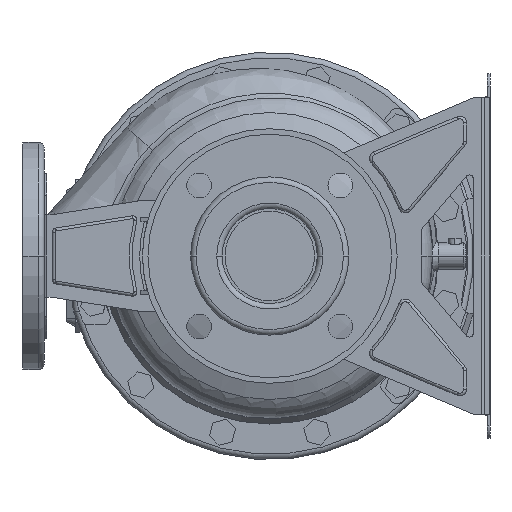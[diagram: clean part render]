
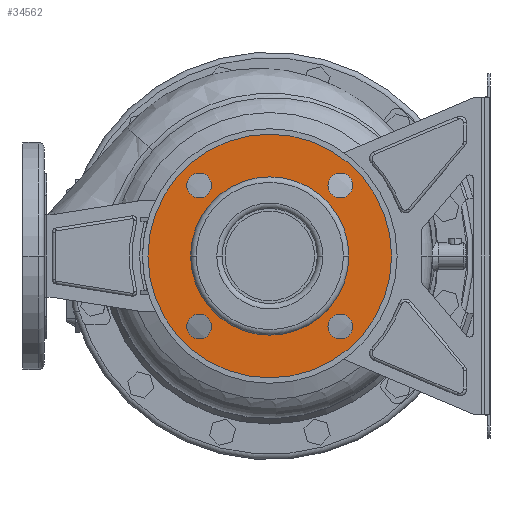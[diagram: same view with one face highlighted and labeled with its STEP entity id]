
A CAD part, front view. The second image highlights one B-rep face of the part: STEP entity #34562.
In plain terms, the highlighted planar face has unit normal (0, -1, 0) as drawn and (-1, 0, 0) by its records, which use the part's own axes.
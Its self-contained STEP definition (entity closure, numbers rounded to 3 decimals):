
#33895=CARTESIAN_POINT('',(12.,0.,0.));
#33896=DIRECTION('',(-1.,0.,0.));
#33897=DIRECTION('',(0.,1.,0.));
#33898=AXIS2_PLACEMENT_3D('',#33895,#33896,#33897);
#33903=CARTESIAN_POINT('',(12.,0.,0.));
#33904=DIRECTION('',(1.,0.,0.));
#33905=DIRECTION('',(0.,1.,0.));
#33906=AXIS2_PLACEMENT_3D('',#33903,#33904,#33905);
#33911=CARTESIAN_POINT('',(12.,-51.265,51.265));
#33912=DIRECTION('',(1.,0.,0.));
#33913=DIRECTION('',(0.,1.,0.));
#33914=AXIS2_PLACEMENT_3D('',#33911,#33912,#33913);
#33919=CARTESIAN_POINT('',(12.,-51.265,51.265));
#33920=DIRECTION('',(1.,0.,0.));
#33921=DIRECTION('',(0.,-1.,0.));
#33922=AXIS2_PLACEMENT_3D('',#33919,#33920,#33921);
#33927=CARTESIAN_POINT('',(12.,-51.265,-51.265));
#33928=DIRECTION('',(1.,0.,0.));
#33929=DIRECTION('',(0.,0.,1.));
#33930=AXIS2_PLACEMENT_3D('',#33927,#33928,#33929);
#33935=CARTESIAN_POINT('',(12.,-51.265,-51.265));
#33936=DIRECTION('',(1.,0.,0.));
#33937=DIRECTION('',(0.,0.,-1.));
#33938=AXIS2_PLACEMENT_3D('',#33935,#33936,#33937);
#33943=CARTESIAN_POINT('',(12.,51.265,-51.265));
#33944=DIRECTION('',(1.,0.,0.));
#33945=DIRECTION('',(0.,-1.,0.));
#33946=AXIS2_PLACEMENT_3D('',#33943,#33944,#33945);
#33951=CARTESIAN_POINT('',(12.,51.265,-51.265));
#33952=DIRECTION('',(1.,0.,0.));
#33953=DIRECTION('',(0.,1.,0.));
#33954=AXIS2_PLACEMENT_3D('',#33951,#33952,#33953);
#33959=CARTESIAN_POINT('',(12.,51.265,51.265));
#33960=DIRECTION('',(1.,0.,0.));
#33961=DIRECTION('',(0.,0.,-1.));
#33962=AXIS2_PLACEMENT_3D('',#33959,#33960,#33961);
#33967=CARTESIAN_POINT('',(12.,51.265,51.265));
#33968=DIRECTION('',(1.,0.,0.));
#33969=DIRECTION('',(0.,0.,1.));
#33970=AXIS2_PLACEMENT_3D('',#33967,#33968,#33969);
#33975=CARTESIAN_POINT('',(12.,0.,0.));
#33976=DIRECTION('',(1.,0.,0.));
#33977=DIRECTION('',(0.,1.,0.));
#33978=AXIS2_PLACEMENT_3D('',#33975,#33976,#33977);
#33997=CARTESIAN_POINT('',(12.,0.,0.));
#33998=DIRECTION('',(-1.,0.,0.));
#33999=DIRECTION('',(0.,1.,0.));
#34000=AXIS2_PLACEMENT_3D('',#33997,#33998,#33999);
#34162=CARTESIAN_POINT('',(12.,88.5,0.));
#34164=VERTEX_POINT('',#34162);
#34165=CARTESIAN_POINT('',(12.,57.5,0.));
#34167=VERTEX_POINT('',#34165);
#34194=CARTESIAN_POINT('',(12.,-88.5,0.));
#34196=VERTEX_POINT('',#34194);
#34197=CARTESIAN_POINT('',(12.,-57.5,0.));
#34199=VERTEX_POINT('',#34197);
#34209=CARTESIAN_POINT('',(12.,-42.265,51.265));
#34210=CARTESIAN_POINT('',(12.,-60.265,51.265));
#34211=VERTEX_POINT('',#34209);
#34212=VERTEX_POINT('',#34210);
#34217=CARTESIAN_POINT('',(12.,-51.265,-42.265));
#34218=CARTESIAN_POINT('',(12.,-51.265,-60.265));
#34219=VERTEX_POINT('',#34217);
#34220=VERTEX_POINT('',#34218);
#34225=CARTESIAN_POINT('',(12.,42.265,-51.265));
#34226=CARTESIAN_POINT('',(12.,60.265,-51.265));
#34227=VERTEX_POINT('',#34225);
#34228=VERTEX_POINT('',#34226);
#34233=CARTESIAN_POINT('',(12.,51.265,42.265));
#34234=CARTESIAN_POINT('',(12.,51.265,60.265));
#34235=VERTEX_POINT('',#34233);
#34236=VERTEX_POINT('',#34234);
#34523=CARTESIAN_POINT('',(12.,0.,0.));
#34524=DIRECTION('',(1.,0.,0.));
#34525=DIRECTION('',(0.,-1.,0.));
#34526=AXIS2_PLACEMENT_3D('',#34523,#34524,#34525);
#34527=PLANE('',#34526);
#34528=ORIENTED_EDGE('',*,*,#34516,.F.);
#34529=ORIENTED_EDGE('',*,*,#34505,.T.);
#34530=EDGE_LOOP('',(#34528,#34529));
#34531=FACE_OUTER_BOUND('',#34530,.F.);
#34533=ORIENTED_EDGE('',*,*,#34532,.F.);
#34535=ORIENTED_EDGE('',*,*,#34534,.T.);
#34536=EDGE_LOOP('',(#34533,#34535));
#34537=FACE_BOUND('',#34536,.F.);
#34539=ORIENTED_EDGE('',*,*,#34538,.F.);
#34541=ORIENTED_EDGE('',*,*,#34540,.F.);
#34542=EDGE_LOOP('',(#34539,#34541));
#34543=FACE_BOUND('',#34542,.F.);
#34545=ORIENTED_EDGE('',*,*,#34544,.F.);
#34547=ORIENTED_EDGE('',*,*,#34546,.F.);
#34548=EDGE_LOOP('',(#34545,#34547));
#34549=FACE_BOUND('',#34548,.F.);
#34551=ORIENTED_EDGE('',*,*,#34550,.F.);
#34553=ORIENTED_EDGE('',*,*,#34552,.F.);
#34554=EDGE_LOOP('',(#34551,#34553));
#34555=FACE_BOUND('',#34554,.F.);
#34557=ORIENTED_EDGE('',*,*,#34556,.F.);
#34559=ORIENTED_EDGE('',*,*,#34558,.F.);
#34560=EDGE_LOOP('',(#34557,#34559));
#34561=FACE_BOUND('',#34560,.F.);
#33899=CIRCLE('',#33898,88.5);
#33907=CIRCLE('',#33906,88.5);
#33915=CIRCLE('',#33914,9.);
#33923=CIRCLE('',#33922,9.);
#33931=CIRCLE('',#33930,9.);
#33939=CIRCLE('',#33938,9.);
#33947=CIRCLE('',#33946,9.);
#33955=CIRCLE('',#33954,9.);
#33963=CIRCLE('',#33962,9.);
#33971=CIRCLE('',#33970,9.);
#33979=CIRCLE('',#33978,57.5);
#34001=CIRCLE('',#34000,57.5);
#34505=EDGE_CURVE('',#34164,#34196,#33907,.T.);
#34516=EDGE_CURVE('',#34164,#34196,#33899,.T.);
#34532=EDGE_CURVE('',#34167,#34199,#33979,.T.);
#34534=EDGE_CURVE('',#34167,#34199,#34001,.T.);
#34538=EDGE_CURVE('',#34211,#34212,#33915,.T.);
#34540=EDGE_CURVE('',#34212,#34211,#33923,.T.);
#34544=EDGE_CURVE('',#34219,#34220,#33931,.T.);
#34546=EDGE_CURVE('',#34220,#34219,#33939,.T.);
#34550=EDGE_CURVE('',#34227,#34228,#33947,.T.);
#34552=EDGE_CURVE('',#34228,#34227,#33955,.T.);
#34556=EDGE_CURVE('',#34235,#34236,#33963,.T.);
#34558=EDGE_CURVE('',#34236,#34235,#33971,.T.);
#34562=ADVANCED_FACE('',(#34531,#34537,#34543,#34549,#34555,#34561),#34527,.F.);
